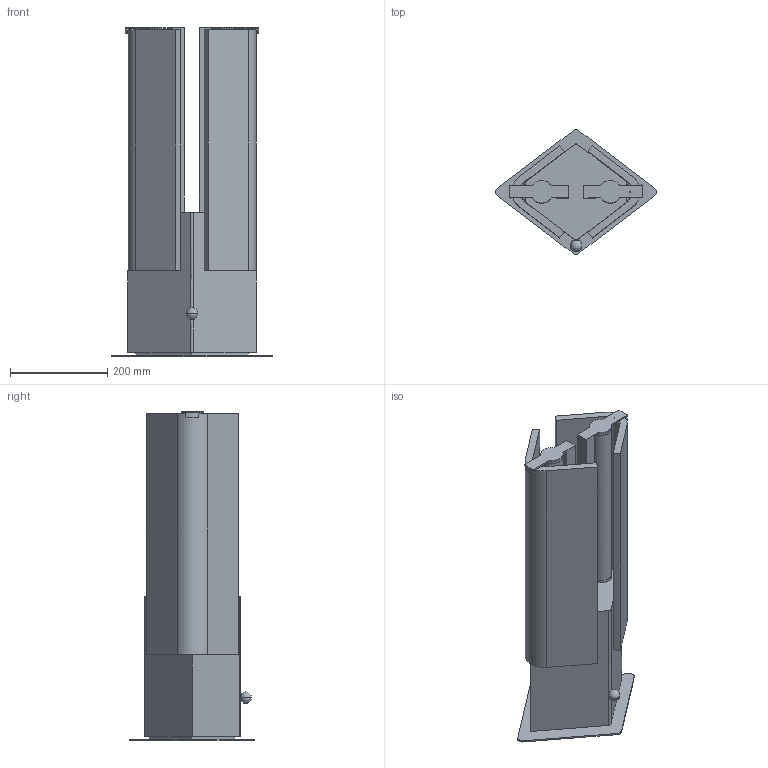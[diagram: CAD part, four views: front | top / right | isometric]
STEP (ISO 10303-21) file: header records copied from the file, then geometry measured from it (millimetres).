
FILE_DESCRIPTION(/* description */ (''),/* implementation_level */ '2;1');
FILE_NAME(/* name */ 'TACTIL~1',/* time_stamp */ '2017-11-27T10:53:14+01:00',/* author */ (''),/* organization */ (''),/* preprocessor_version */ 'ST-DEVELOPER v15',/* originating_system */ '',/* authorisation */ '');
FILE_SCHEMA (('AUTOMOTIVE_DESIGN'));
Length unit declared in the file: millimetre
Products named in the file (1): Document
Bounding box: 330.37 x 255.95 x 676.4 mm (x, y, z)
Volume: 6522579.9 mm3; surface area: 1283114.4 mm2
Topology: 4 solids, 4 shells, 168 faces, 460 edges, 300 vertices
Faces by surface type: plane 113, bspline 55
Entity records: 5466 total; most frequent: CARTESIAN_POINT 2522, ORIENTED_EDGE 912, EDGE_CURVE 456, B_SPLINE_CURVE_WITH_KNOTS 327, VERTEX_POINT 300, EDGE_LOOP 186, ADVANCED_FACE 168, FACE_OUTER_BOUND 168
